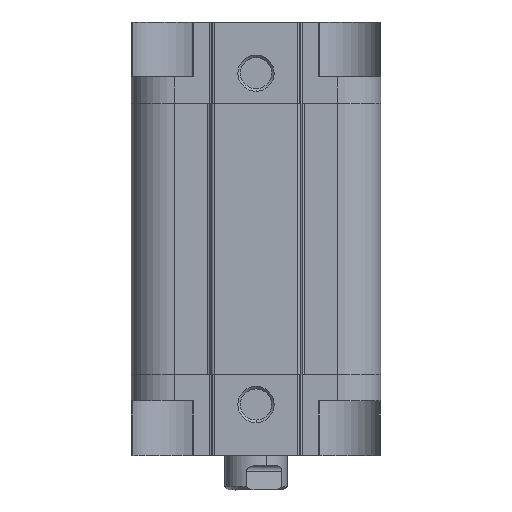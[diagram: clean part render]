
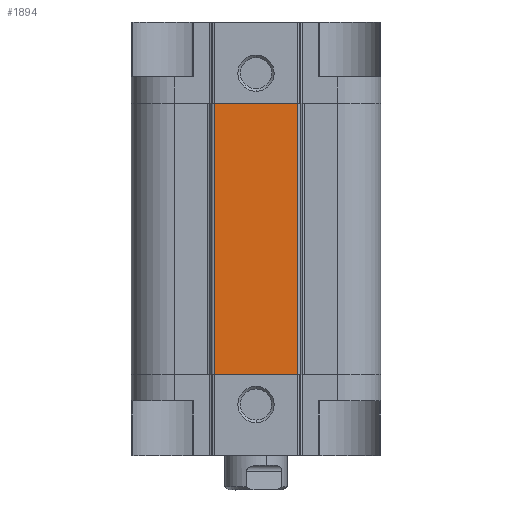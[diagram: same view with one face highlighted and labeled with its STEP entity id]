
A CAD part, front view. The second image highlights one B-rep face of the part: STEP entity #1894.
In plain terms, the highlighted planar face has unit normal (0, -1, 0).
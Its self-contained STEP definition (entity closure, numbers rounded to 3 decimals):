
#411 = VERTEX_POINT ( 'NONE', #3959 ) ;
#1111 = VERTEX_POINT ( 'NONE', #1315 ) ;
#1123 = VECTOR ( 'NONE', #10766, 1000. ) ;
#1315 = CARTESIAN_POINT ( 'NONE',  ( 6.712, -21.5, 0. ) ) ;
#1403 = LINE ( 'NONE', #4571, #1123 ) ;
#1506 = LINE ( 'NONE', #9008, #8333 ) ;
#1822 = CARTESIAN_POINT ( 'NONE',  ( -6.712, -21.5, 0. ) ) ;
#1894 = ADVANCED_FACE ( 'NONE', ( #11403 ), #9875, .F. ) ;
#2468 = EDGE_CURVE ( 'NONE', #5734, #411, #10542, .T. ) ;
#2732 = ORIENTED_EDGE ( 'NONE', *, *, #6799, .T. ) ;
#3044 = LINE ( 'NONE', #4753, #10127 ) ;
#3093 = ORIENTED_EDGE ( 'NONE', *, *, #2468, .F. ) ;
#3959 = CARTESIAN_POINT ( 'NONE',  ( 6.712, -21.5, 43.5 ) ) ;
#4555 = DIRECTION ( 'NONE',  ( 0., 0., 1. ) ) ;
#4564 = DIRECTION ( 'NONE',  ( 0., 1., 0. ) ) ;
#4571 = CARTESIAN_POINT ( 'NONE',  ( 6.712, -21.5, 21.75 ) ) ;
#4753 = CARTESIAN_POINT ( 'NONE',  ( 0., -21.5, 0. ) ) ;
#5213 = CARTESIAN_POINT ( 'NONE',  ( -6.712, -21.5, 43.5 ) ) ;
#5334 = VERTEX_POINT ( 'NONE', #1822 ) ;
#5513 = EDGE_LOOP ( 'NONE', ( #3093, #8945, #2732, #5761 ) ) ;
#5734 = VERTEX_POINT ( 'NONE', #5213 ) ;
#5761 = ORIENTED_EDGE ( 'NONE', *, *, #10474, .F. ) ;
#5818 = AXIS2_PLACEMENT_3D ( 'NONE', #8105, #4564, #10760 ) ;
#6586 = DIRECTION ( 'NONE',  ( 1., 0., 0. ) ) ;
#6799 = EDGE_CURVE ( 'NONE', #5334, #1111, #3044, .T. ) ;
#7222 = EDGE_CURVE ( 'NONE', #5334, #5734, #1506, .T. ) ;
#7464 = CARTESIAN_POINT ( 'NONE',  ( 0., -21.5, 43.5 ) ) ;
#8105 = CARTESIAN_POINT ( 'NONE',  ( -6.712, -21.5, 0. ) ) ;
#8295 = DIRECTION ( 'NONE',  ( 1., 0., 0. ) ) ;
#8333 = VECTOR ( 'NONE', #4555, 1000. ) ;
#8945 = ORIENTED_EDGE ( 'NONE', *, *, #7222, .F. ) ;
#9008 = CARTESIAN_POINT ( 'NONE',  ( -6.712, -21.5, 21.75 ) ) ;
#9875 = PLANE ( 'NONE',  #5818 ) ;
#10127 = VECTOR ( 'NONE', #8295, 1000. ) ;
#10264 = VECTOR ( 'NONE', #6586, 1000. ) ;
#10474 = EDGE_CURVE ( 'NONE', #411, #1111, #1403, .T. ) ;
#10542 = LINE ( 'NONE', #7464, #10264 ) ;
#10760 = DIRECTION ( 'NONE',  ( 0., 0., 1. ) ) ;
#10766 = DIRECTION ( 'NONE',  ( 0., 0., -1. ) ) ;
#11403 = FACE_OUTER_BOUND ( 'NONE', #5513, .T. ) ;
